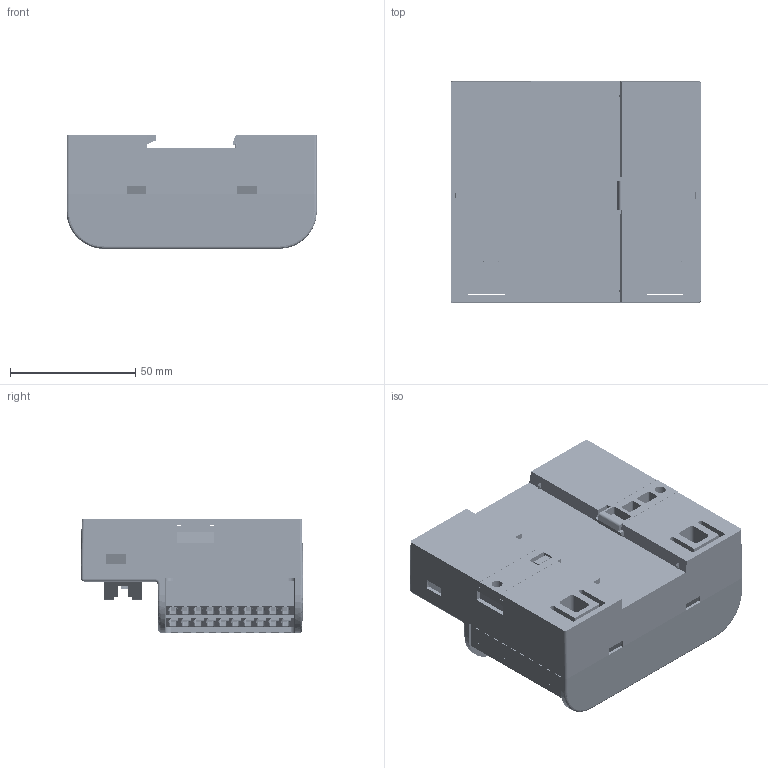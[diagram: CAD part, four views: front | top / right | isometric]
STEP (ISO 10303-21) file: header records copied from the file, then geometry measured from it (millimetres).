
FILE_DESCRIPTION(/* description */ (''),/* implementation_level */ '2;1');
FILE_NAME(/* name */ '22-152-1e.stp',/* time_stamp */ '2022-06-13T11:48:53+08:00',/* author */ (''),/* organization */ (''),/* preprocessor_version */ 'ST-DEVELOPER v16',/* originating_system */ 'SIEMENS PLM Software NX 10.0',/* authorisation */ '');
FILE_SCHEMA (('AP203_CONFIGURATION_CONTROLLED_3D_DESIGN_OF_MECHANICAL_PARTS_AND_ASSEMBLIES_MIM_LF { 1 0 10303 403 2 1 2}'));
Products named in the file (1): 73494CB0AE88e9v0
Bounding box: 100.3 x 88.8 x 45.4 mm (x, y, z)
Volume: 284425.6 mm3; surface area: 114775.1 mm2
Topology: 27 solids, 449 shells, 21016 faces, 53683 edges, 33373 vertices
Faces by surface type: plane 11630, cylinder 5379, cone 2308, extrusion 1434, sphere 174, bspline 62, torus 25, revolution 4
Entity records: 639804 total; most frequent: CARTESIAN_POINT 128760, ORIENTED_EDGE 107014, DIRECTION 104281, EDGE_CURVE 53507, VECTOR 37739, LINE 36305, VERTEX_POINT 33373, AXIS2_PLACEMENT_3D 33269
